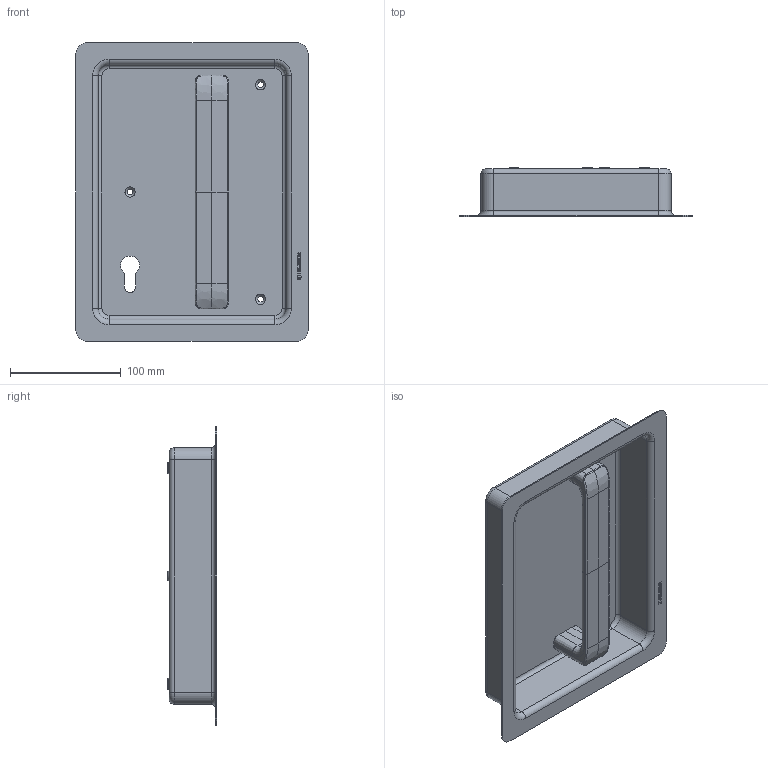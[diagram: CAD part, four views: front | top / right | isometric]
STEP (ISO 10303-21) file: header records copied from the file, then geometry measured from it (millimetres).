
FILE_DESCRIPTION(/* description */ (''),/* implementation_level */ '2;1');
FILE_NAME(/* name */ 'C:\ADSK_DMS_WS\Designs\Vorschläge\Loc Schalen\Heusser Muschel\Heusser-Muschel mit D6\Heusser-Muschel S6.42 mit D6\S6.42.D6.388R..stp',/* time_stamp */ '2025-04-11T15:15:48+02:00',/* author */ ('gm'),/* organization */ (''),/* preprocessor_version */ 'ST-DEVELOPER v17.2',/* originating_system */ 'Autodesk Inventor 2019',/* authorisation */ '');
FILE_SCHEMA (('AUTOMOTIVE_DESIGN { 1 0 10303 214 3 1 1 }'));
Length unit declared in the file: millimetre
Products named in the file (4): S6.42.D6.388R.; Schale S6.42.R.D6; D6; M5x10 zu D6
Assembly tree (6 placements, depth 2):
  S6.42.D6.388R.
    Schale S6.42.R.D6
    D6
    M5x10 zu D6  x4
Bounding box: 210 x 44.5 x 270 mm (x, y, z)
Volume: 168317.8 mm3; surface area: 196173.1 mm2
Topology: 6 solids, 6 shells, 389 faces, 998 edges, 640 vertices
Faces by surface type: plane 127, bspline 98, cylinder 94, cone 50, torus 20
Full cylindrical faces by diameter (mm): 4.134 x4, 5 x4, 5.5 x4, 9 x4
Entity records: 13601 total; most frequent: CARTESIAN_POINT 6484, ORIENTED_EDGE 1572, DIRECTION 1185, EDGE_CURVE 786, VERTEX_POINT 505, LINE 425, VECTOR 425, AXIS2_PLACEMENT_3D 380
